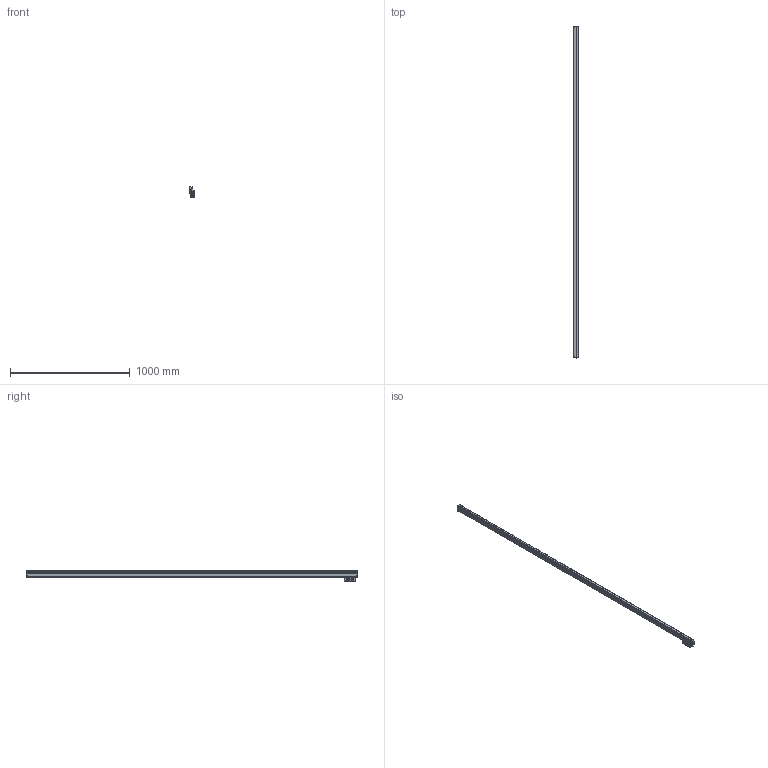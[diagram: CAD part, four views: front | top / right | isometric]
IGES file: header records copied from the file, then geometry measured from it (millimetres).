
Start section: Elysium IGES Interface
Global section: file name: 82HK:\20_商品設計\設計１課\個人\宮澤\郷間さん\AT1123\3D\NEW_ﾌｧｲﾙ\IGES\AT1123-2640.igs; native system: Creo Elements/Direct Modeling 18.1B  29-Sep-2012; preprocessor: Creo Element/Direct IGES_3D V2.2; author: Unknown; organization: Unknown; date: 20181012.094229; units: millimetre
Bounding box: 37 x 2768.31 x 85 mm (x, y, z)
Volume: 4300259.5 mm3; surface area: 610213.9 mm2
Topology: 2 solids, 2 shells, 3740 faces, 10122 edges, 6576 vertices
Faces by surface type: bspline 3740
